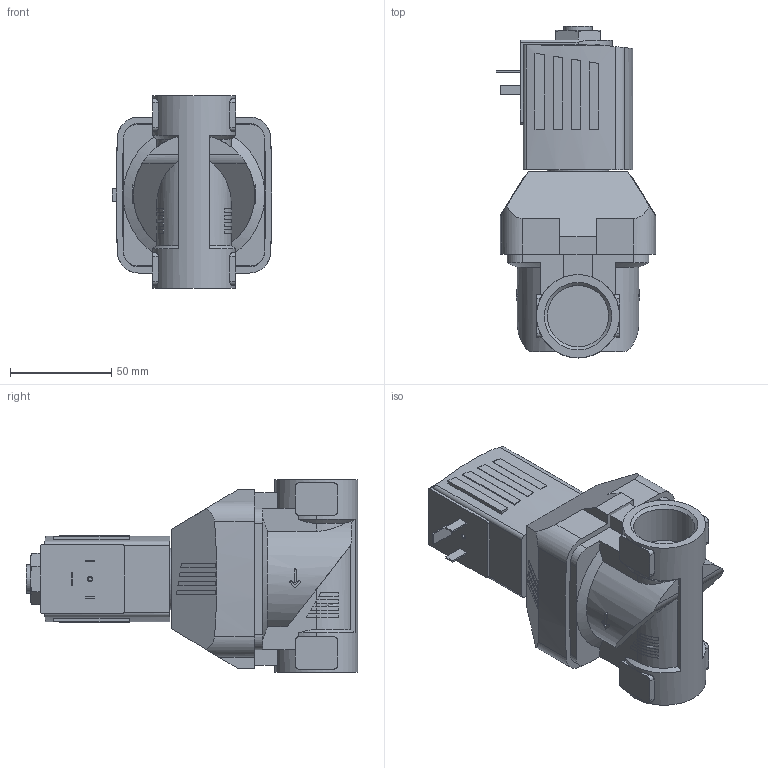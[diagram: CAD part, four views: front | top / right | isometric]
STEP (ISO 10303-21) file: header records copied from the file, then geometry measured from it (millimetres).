
FILE_DESCRIPTION( ( 'STEP AP214' ), '1' );
FILE_NAME( 'p:/temp/worker_13/temp/app_47_02018110109372812753450192d056f_000000_00_00_000000/format_0/6213-228430-2_2-Way-Solenoid-Valve_for_fluids.stp', '2018-11-01T08:37:29', ( '' ), ( '' ), ' ', 'PARTsolutions', ' ' );
FILE_SCHEMA( ( 'AUTOMOTIVE_DESIGN { 1 0 10303 214 1 1 1 1 }' ) );
Length unit declared in the file: millimetre
Products named in the file (4): 6213-228430-2/2-Way-Solenoid-Valve for fluids; HI_AC10ex-42SG=k-Plan-Coil; _6213-25U5-2/2-Wege-Magnetventil-feur-Fluessigkeiten-und-Gase; HI_6213-25G1VA-Gehaeuse-
Assembly tree (3 placements, depth 2):
  6213-228430-2/2-Way-Solenoid-Valve for fluids
    HI_AC10ex-42SG=k-Plan-Coil
    _6213-25U5-2/2-Wege-Magnetventil-feur-Fluessigkeiten-und-Gase
    HI_6213-25G1VA-Gehaeuse-
Bounding box: 79 x 163.85 x 95 mm (x, y, z)
Volume: 500448.6 mm3; surface area: 67323.9 mm2
Topology: 3 solids, 3 shells, 358 faces, 962 edges, 634 vertices
Faces by surface type: plane 263, cylinder 80, cone 15
Full cylindrical faces by diameter (mm): 2.013 x1, 14 x1, 30.291 x2, 30.3 x1, 41 x1
Entity records: 14328 total; most frequent: CARTESIAN_POINT 2414, ORIENTED_EDGE 1894, DIRECTION 1844, EDGE_CURVE 947, LINE 638, VECTOR 638, VERTEX_POINT 631, AXIS2_PLACEMENT_3D 603
